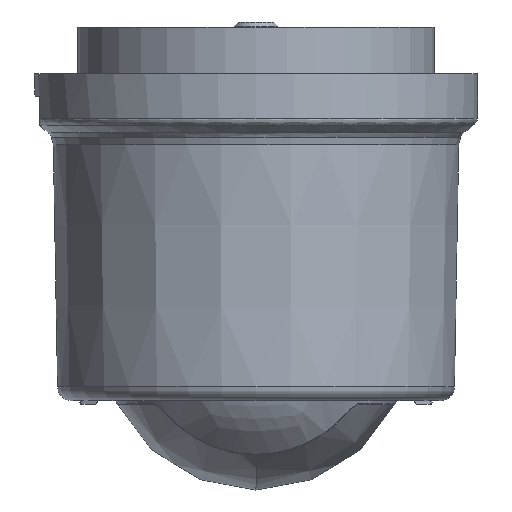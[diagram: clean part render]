
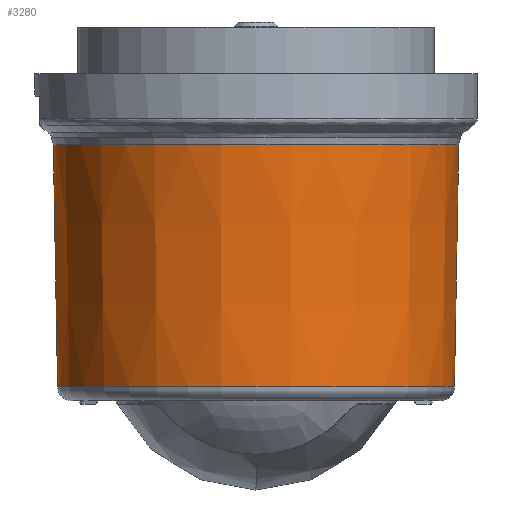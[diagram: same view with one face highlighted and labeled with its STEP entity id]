
A CAD part, left-side view. The second image highlights one B-rep face of the part: STEP entity #3280.
In plain terms, the highlighted conical face has half-angle 1 degrees and reference radius 21.957 mm.
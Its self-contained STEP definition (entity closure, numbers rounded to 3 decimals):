
#60 = ORIENTED_EDGE ( 'NONE', *, *, #4303, .T. ) ;
#133 = CARTESIAN_POINT ( 'NONE',  ( 0., 21.499, -38.988 ) ) ;
#602 = CIRCLE ( 'NONE', #2976, 21.957 ) ;
#1394 = DIRECTION ( 'NONE',  ( 0., 1., 0. ) ) ;
#1625 = CARTESIAN_POINT ( 'NONE',  ( 0., 21.957, -12.746 ) ) ;
#1626 = DIRECTION ( 'NONE',  ( 0., 0., -1. ) ) ;
#1826 = DIRECTION ( 'NONE',  ( 0., 0., 1. ) ) ;
#1964 = EDGE_CURVE ( 'NONE', #4627, #4627, #602, .T. ) ;
#2114 = FACE_BOUND ( 'NONE', #4199, .T. ) ;
#2682 = CARTESIAN_POINT ( 'NONE',  ( 0., 0., -12.746 ) ) ;
#2976 = AXIS2_PLACEMENT_3D ( 'NONE', #2682, #1626, #3732 ) ;
#3225 = VERTEX_POINT ( 'NONE', #133 ) ;
#3280 = ADVANCED_FACE ( 'NONE', ( #2114, #3860 ), #4169, .T. ) ;
#3732 = DIRECTION ( 'NONE',  ( 0., 1., 0. ) ) ;
#3860 = FACE_OUTER_BOUND ( 'NONE', #4766, .T. ) ;
#4169 = CONICAL_SURFACE ( 'NONE', #5371, 21.957, 0.017 ) ;
#4199 = EDGE_LOOP ( 'NONE', ( #60 ) ) ;
#4303 = EDGE_CURVE ( 'NONE', #3225, #3225, #5270, .T. ) ;
#4505 = AXIS2_PLACEMENT_3D ( 'NONE', #6055, #6085, #1394 ) ;
#4627 = VERTEX_POINT ( 'NONE', #1625 ) ;
#4766 = EDGE_LOOP ( 'NONE', ( #5095 ) ) ;
#4889 = CARTESIAN_POINT ( 'NONE',  ( 0., 0., -12.746 ) ) ;
#5095 = ORIENTED_EDGE ( 'NONE', *, *, #1964, .T. ) ;
#5270 = CIRCLE ( 'NONE', #4505, 21.499 ) ;
#5371 = AXIS2_PLACEMENT_3D ( 'NONE', #4889, #1826, #5943 ) ;
#5943 = DIRECTION ( 'NONE',  ( 1., 0., 0. ) ) ;
#6055 = CARTESIAN_POINT ( 'NONE',  ( 0., 0., -38.988 ) ) ;
#6085 = DIRECTION ( 'NONE',  ( 0., 0., 1. ) ) ;
